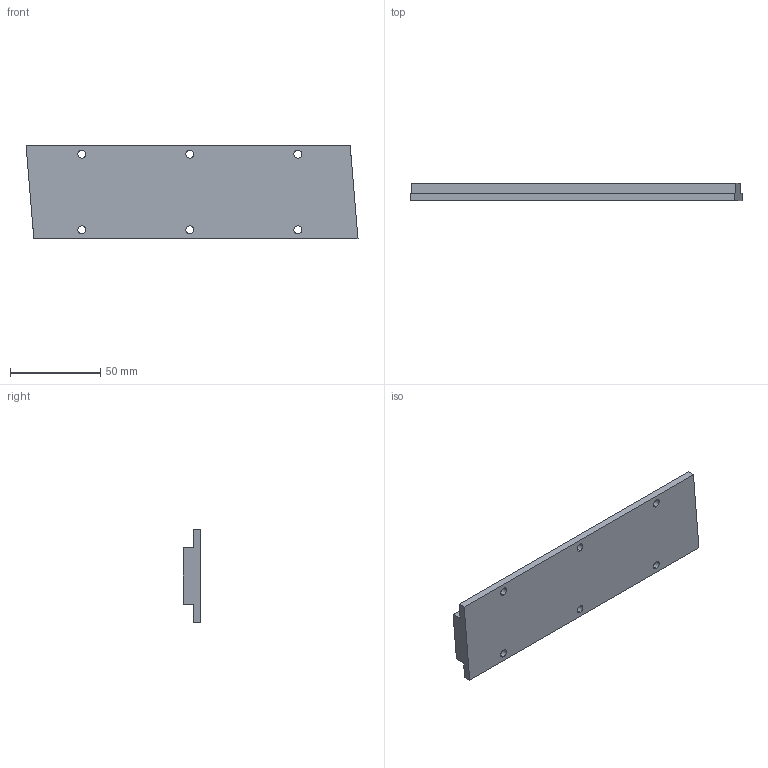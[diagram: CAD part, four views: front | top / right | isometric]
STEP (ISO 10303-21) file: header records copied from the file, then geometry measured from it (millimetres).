
FILE_DESCRIPTION (( 'STEP AP214' ), '1' );
FILE_NAME ('MK1-180隅赽.STEP', '2025-09-05T08:53:49', ( '' ), ( '' ), 'SwSTEP 2.0', 'SolidWorks 2016', '' );
FILE_SCHEMA (( 'AUTOMOTIVE_DESIGN' ));
Length unit declared in the file: millimetre
Products named in the file (1): MK1-180隅赽
Bounding box: 184.36 x 9.6 x 52 mm (x, y, z)
Volume: 68910.9 mm3; surface area: 23103.6 mm2
Topology: 1 solids, 1 shells, 62 faces, 174 edges, 116 vertices
Faces by surface type: plane 34, bspline 16, cylinder 12
Entity records: 2832 total; most frequent: CARTESIAN_POINT 1257, ORIENTED_EDGE 348, DIRECTION 260, EDGE_CURVE 174, VECTOR 118, LINE 118, VERTEX_POINT 116, EDGE_LOOP 76
